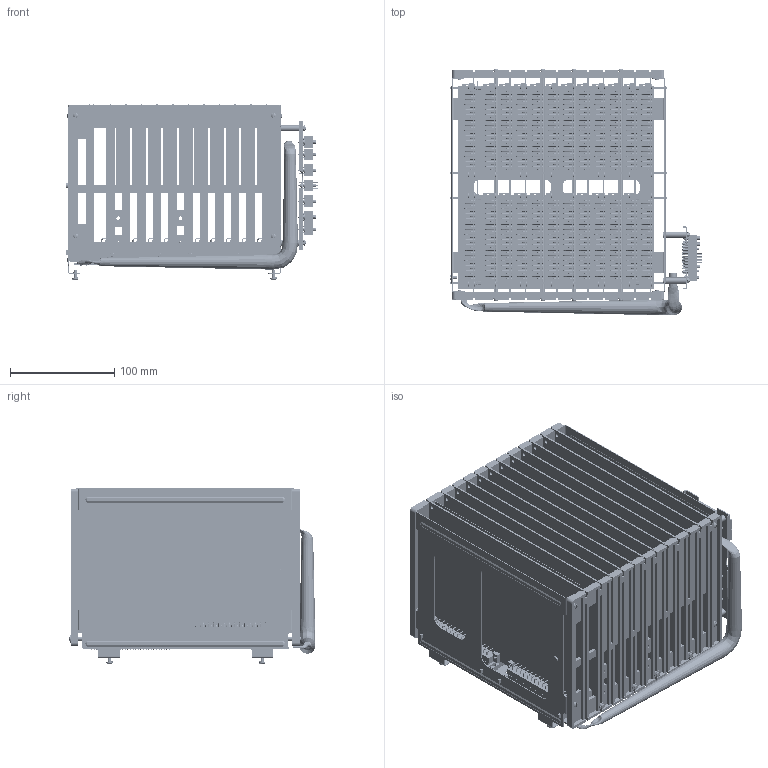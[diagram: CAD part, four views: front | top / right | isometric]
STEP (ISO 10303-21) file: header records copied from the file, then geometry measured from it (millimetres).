
FILE_DESCRIPTION(('STEP AP214'),'1');
FILE_NAME('Card cage assy.stp','2021-03-25T15:34:44',(' '),(' '),'Spatial InterOp 3D',' ',' ');
FILE_SCHEMA(('AUTOMOTIVE_DESIGN { 1 0 10303 214 1 1 1 1 }'));
Length unit declared in the file: millimetre
Products named in the file (129): Backplane lateral retainer shaft assy; Ring : E-Ring - M4.0 x 0.6; Washer : Plain - M4.0 x 1.0; Backplane lateral retainer shaft; Card cage assy; Backplane strengthener bar; Part6; Sleeve; Card guide fixings; Fillister screw - M3.0 x 6.0; Plain washer - M3.0 x 0.75; Side plate with connectors fixings; Connector side plate ; Chassis fixings; Washer : Plain - M3.0 x 0.75; Washer : Single Coil - M3.0 x 1.6; Screw : Fillister - M3.0 x 8.0; Connector side plate assy; 32 pin socket; 32 pin front; 32 pin rear; Alignment pin; Body; Washer : Plain - M2.0 x 0.75; Nut : Standard - M2.0 x 26.162; Alignment socket; Solder socket; Connector assy; 20 pin socket; 20 pin socket front; 20 pin socket rear; 11 pin plug; 11 pin plug front; 11 pin plug rear; Solder pin; Backplane connector bracket left; Backplane connector bracket right; Nut : Standard - M3.0 x 39.243; Thermal sensor side plate assy; M3 x 5.0 PH slotted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
Assembly tree (372 placements, depth 6):
  Card cage assy
    Backplane lateral retainer shaft assy  x4
      Ring : E-Ring - M4.0 x 0.6
      Washer : Plain - M4.0 x 1.0
      Backplane lateral retainer shaft
    Backplane strengthener bar  x4
      Part6
      (unnamed)
      Sleeve
    Card guide fixings
      Fillister screw - M3.0 x 6.0  x4
      Fillister screw - M3.0 x 6.0
      Fillister screw - M3.0 x 6.0
      Fillister screw - M3.0 x 6.0
      Fillister screw - M3.0 x 6.0
      Plain washer - M3.0 x 0.75  x4
      Plain washer - M3.0 x 0.75
      Plain washer - M3.0 x 0.75
      Plain washer - M3.0 x 0.75
      Plain washer - M3.0 x 0.75
    Connector side plate assy
      Side plate with connectors fixings
        Connector side plate 
        (unnamed)
        (unnamed)
        (unnamed)
        (unnamed)
        Chassis fixings
          Washer : Plain - M3.0 x 0.75
          Washer : Single Coil - M3.0 x 1.6
          Screw : Fillister - M3.0 x 8.0
        Chassis fixings
          Washer : Plain - M3.0 x 0.75
          Washer : Single Coil - M3.0 x 1.6
          Screw : Fillister - M3.0 x 8.0
      Connector assy
        32 pin socket  x5
          32 pin front
          32 pin rear
          Alignment pin
            Body
            Washer : Plain - M2.0 x 0.75
            Nut : Standard - M2.0 x 26.162
          Alignment socket
            Body
            Washer : Plain - M2.0 x 0.75
            Nut : Standard - M2.0 x 26.162
          Solder socket
          Solder socket
          Solder socket
        20 pin socket
          20 pin socket front
          20 pin socket rear
          Alignment pin
            Body
            Washer : Plain - M2.0 x 0.75
            Nut : Standard - M2.0 x 26.162
          Alignment socket
            Body
            Washer : Plain - M2.0 x 0.75
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Bounding box: 242.83 x 236.8 x 169.56 mm (x, y, z)
Volume: 1282310.8 mm3; surface area: 1590617.7 mm2
Topology: 1977 solids, 1977 shells, 24405 faces, 50336 edges, 33010 vertices
Faces by surface type: plane 10166, cylinder 9435, cone 3884, torus 866, sphere 27, bspline 27
Full cylindrical faces by diameter (mm): 1 x4846, 1.2 x744, 1.3 x382, 1.5 x191, 1.6 x28, 1.97 x7, 2 x2001, 2.006 x74, 2.1 x21, 2.2 x65, 2.3 x4, 2.4 x35, 2.5 x5, 2.7 x17, 3 x152, 3.1 x52, 3.2 x8, 3.3 x28, 3.4 x4, 3.5 x28, 3.55 x7, 3.59 x8, 4 x22, 4.25 x4, 4.5 x8, 4.6 x4, 4.689 x8, 4.8 x8, 4.85 x14, 5 x100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
Entity records: 120804 total; most frequent: CARTESIAN_POINT 20740, DIRECTION 15098, ORIENTED_EDGE 13134, EDGE_CURVE 6567, AXIS2_PLACEMENT_3D 5612, EDGE_LOOP 5206, VERTEX_POINT 4881, LINE 3874
